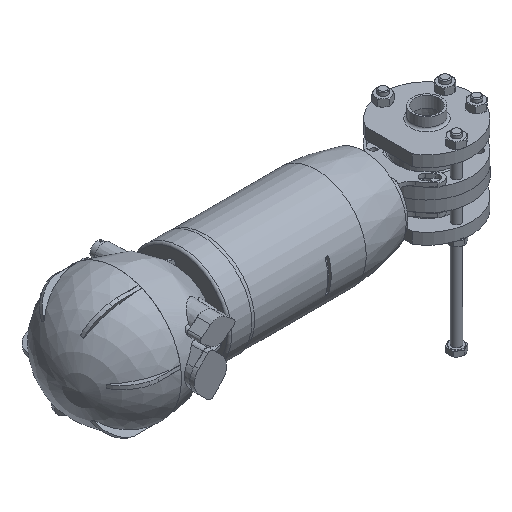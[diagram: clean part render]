
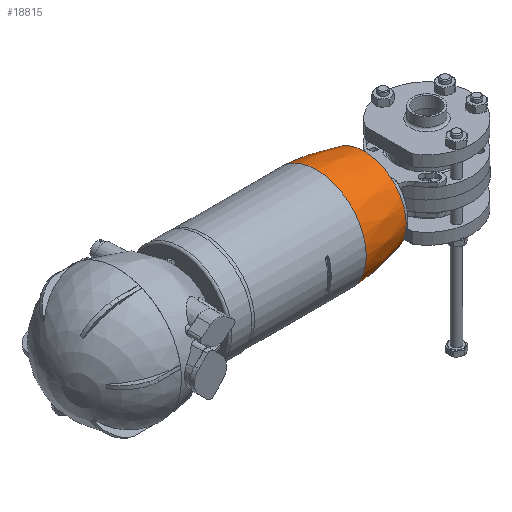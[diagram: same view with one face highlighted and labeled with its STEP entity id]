
A CAD part, isometric view. The second image highlights one B-rep face of the part: STEP entity #18815.
In plain terms, the highlighted free-form (B-spline) face has degree [2, 2] with [3, 9] control points.
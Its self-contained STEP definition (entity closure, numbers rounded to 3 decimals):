
#677=(
BOUNDED_SURFACE()
B_SPLINE_SURFACE(2,2,((#34720,#34721,#34722,#34723,#34724,#34725,#34726,
#34727,#34728),(#34729,#34730,#34731,#34732,#34733,#34734,#34735,#34736,
#34737),(#34738,#34739,#34740,#34741,#34742,#34743,#34744,#34745,#34746)),
 .UNSPECIFIED.,.F.,.T.,.F.)
B_SPLINE_SURFACE_WITH_KNOTS((3,3),(3,2,2,2,3),(0.027,0.298),
(-3.142,-1.571,0.,1.571,3.142),
 .UNSPECIFIED.)
GEOMETRIC_REPRESENTATION_ITEM()
RATIONAL_B_SPLINE_SURFACE(((1.,0.707,1.,0.707,1.,
0.707,1.,0.707,1.),(0.991,0.701,
0.991,0.701,0.991,0.701,0.991,
0.701,0.991),(1.,0.707,1.,0.707,
1.,0.707,1.,0.707,1.)))
REPRESENTATION_ITEM('')
SURFACE()
);
#3549=FACE_OUTER_BOUND('',#4640,.T.);
#4640=EDGE_LOOP('',(#16884,#16885,#16886,#16887,#16888,#16889));
#7615=CIRCLE('',#21135,44.5);
#7616=CIRCLE('',#21136,44.5);
#7618=CIRCLE('',#21138,44.5);
#7650=CIRCLE('',#21193,37.5);
#7659=CIRCLE('',#21202,160.);
#9309=VERTEX_POINT('',#34453);
#9310=VERTEX_POINT('',#34454);
#9311=VERTEX_POINT('',#34456);
#9345=VERTEX_POINT('',#34702);
#11847=EDGE_CURVE('',#9309,#9310,#7615,.T.);
#11848=EDGE_CURVE('',#9311,#9309,#7616,.T.);
#11854=EDGE_CURVE('',#9310,#9311,#7618,.T.);
#11909=EDGE_CURVE('',#9345,#9345,#7650,.T.);
#11918=EDGE_CURVE('',#9310,#9345,#7659,.T.);
#16884=ORIENTED_EDGE('',*,*,#11847,.T.);
#16885=ORIENTED_EDGE('',*,*,#11918,.T.);
#16886=ORIENTED_EDGE('',*,*,#11909,.F.);
#16887=ORIENTED_EDGE('',*,*,#11918,.F.);
#16888=ORIENTED_EDGE('',*,*,#11854,.T.);
#16889=ORIENTED_EDGE('',*,*,#11848,.T.);
#18815=ADVANCED_FACE('',(#3549),#677,.F.);
#21135=AXIS2_PLACEMENT_3D('',#34455,#26156,#26157);
#21136=AXIS2_PLACEMENT_3D('',#34457,#26158,#26159);
#21138=AXIS2_PLACEMENT_3D('',#34464,#26166,#26167);
#21193=AXIS2_PLACEMENT_3D('',#34703,#26293,#26294);
#21202=AXIS2_PLACEMENT_3D('',#34747,#26311,#26312);
#26156=DIRECTION('center_axis',(0.,-1.,0.));
#26157=DIRECTION('ref_axis',(-1.,0.,0.));
#26158=DIRECTION('center_axis',(0.,-1.,0.));
#26159=DIRECTION('ref_axis',(-1.,0.,0.));
#26166=DIRECTION('center_axis',(0.,-1.,0.));
#26167=DIRECTION('ref_axis',(-1.,0.,0.));
#26293=DIRECTION('center_axis',(0.,-1.,0.));
#26294=DIRECTION('ref_axis',(-1.,0.,0.));
#26311=DIRECTION('center_axis',(1.,0.,0.));
#26312=DIRECTION('ref_axis',(0.,0.,
1.));
#34453=CARTESIAN_POINT('',(0.,-28.317,-44.5));
#34454=CARTESIAN_POINT('',(0.,-28.317,44.5));
#34455=CARTESIAN_POINT('Origin',(0.,-28.317,0.));
#34456=CARTESIAN_POINT('',(-44.5,-28.317,0.));
#34457=CARTESIAN_POINT('Origin',(0.,-28.317,0.));
#34464=CARTESIAN_POINT('Origin',(0.,-28.317,0.));
#34702=CARTESIAN_POINT('',(0.,-71.,37.5));
#34703=CARTESIAN_POINT('Origin',(0.,-71.,
0.));
#34720=CARTESIAN_POINT('Ctrl Pts',(0.,-28.317,
44.5));
#34721=CARTESIAN_POINT('Ctrl Pts',(-44.5,-28.317,
44.5));
#34722=CARTESIAN_POINT('Ctrl Pts',(-44.5,-28.317,
0.));
#34723=CARTESIAN_POINT('Ctrl Pts',(-44.5,-28.317,
-44.5));
#34724=CARTESIAN_POINT('Ctrl Pts',(0.,-28.317,
-44.5));
#34725=CARTESIAN_POINT('Ctrl Pts',(44.5,-28.317,-44.5));
#34726=CARTESIAN_POINT('Ctrl Pts',(44.5,-28.317,0.));
#34727=CARTESIAN_POINT('Ctrl Pts',(44.5,-28.317,44.5));
#34728=CARTESIAN_POINT('Ctrl Pts',(0.,-28.317,
44.5));
#34729=CARTESIAN_POINT('Ctrl Pts',(0.,-50.136,
43.911));
#34730=CARTESIAN_POINT('Ctrl Pts',(-43.911,-50.136,
43.911));
#34731=CARTESIAN_POINT('Ctrl Pts',(-43.911,-50.136,
0.));
#34732=CARTESIAN_POINT('Ctrl Pts',(-43.911,-50.136,
-43.911));
#34733=CARTESIAN_POINT('Ctrl Pts',(0.,-50.136,
-43.911));
#34734=CARTESIAN_POINT('Ctrl Pts',(43.911,-50.136,-43.911));
#34735=CARTESIAN_POINT('Ctrl Pts',(43.911,-50.136,0.));
#34736=CARTESIAN_POINT('Ctrl Pts',(43.911,-50.136,43.911));
#34737=CARTESIAN_POINT('Ctrl Pts',(0.,-50.136,
43.911));
#34738=CARTESIAN_POINT('Ctrl Pts',(0.,-71.,
37.5));
#34739=CARTESIAN_POINT('Ctrl Pts',(-37.5,-71.,
37.5));
#34740=CARTESIAN_POINT('Ctrl Pts',(-37.5,-71.,
0.));
#34741=CARTESIAN_POINT('Ctrl Pts',(-37.5,-71.,-37.5));
#34742=CARTESIAN_POINT('Ctrl Pts',(0.,-71.,
-37.5));
#34743=CARTESIAN_POINT('Ctrl Pts',(37.5,-71.,-37.5));
#34744=CARTESIAN_POINT('Ctrl Pts',(37.5,-71.,0.));
#34745=CARTESIAN_POINT('Ctrl Pts',(37.5,-71.,37.5));
#34746=CARTESIAN_POINT('Ctrl Pts',(0.,-71.,
37.5));
#34747=CARTESIAN_POINT('Origin',(0.,-24.002,
-115.442));
